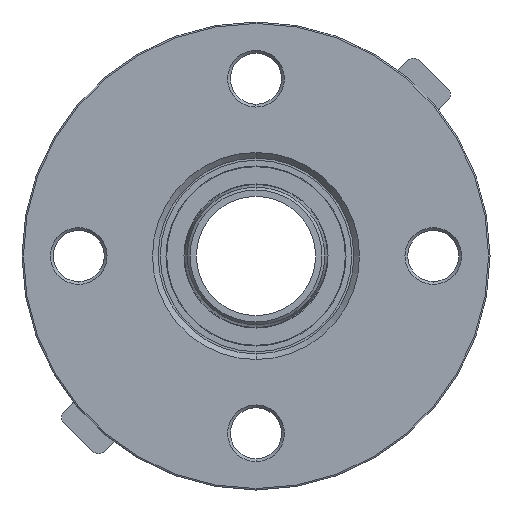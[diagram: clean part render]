
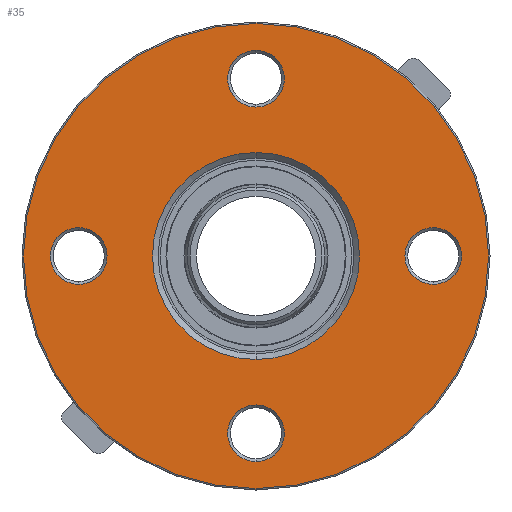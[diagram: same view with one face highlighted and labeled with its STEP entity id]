
A CAD part, left-side view. The second image highlights one B-rep face of the part: STEP entity #35.
In plain terms, the highlighted planar face has unit normal (-1, 0, 0).
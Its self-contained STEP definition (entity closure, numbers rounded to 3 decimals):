
#35 = ADVANCED_FACE ( 'NONE', ( #2738, #2739, #2745, #2735, #2737, #2743 ), #2744, .F. ) ;
#234 = VERTEX_POINT ( 'NONE', #1807 ) ;
#240 = VERTEX_POINT ( 'NONE', #1823 ) ;
#268 = VERTEX_POINT ( 'NONE', #1915 ) ;
#280 = VERTEX_POINT ( 'NONE', #1924 ) ;
#285 = VERTEX_POINT ( 'NONE', #1929 ) ;
#295 = VERTEX_POINT ( 'NONE', #1939 ) ;
#297 = VERTEX_POINT ( 'NONE', #1941 ) ;
#299 = VERTEX_POINT ( 'NONE', #1943 ) ;
#302 = VERTEX_POINT ( 'NONE', #1946 ) ;
#303 = VERTEX_POINT ( 'NONE', #1947 ) ;
#312 = VERTEX_POINT ( 'NONE', #1956 ) ;
#387 = AXIS2_PLACEMENT_3D ( 'NONE', #2746, #2747, #2748 ) ;
#530 = AXIS2_PLACEMENT_3D ( 'NONE', #3006, #3007, #3008 ) ;
#539 = CIRCLE ( 'NONE', #572, 82. ) ;
#547 = AXIS2_PLACEMENT_3D ( 'NONE', #1049, #1050, #1051 ) ;
#551 = CIRCLE ( 'NONE', #530, 36.5 ) ;
#558 = CIRCLE ( 'NONE', #547, 10. ) ;
#572 = AXIS2_PLACEMENT_3D ( 'NONE', #1045, #1046, #1047 ) ;
#662 = EDGE_CURVE ( 'NONE', #297, #1070, #539, .T. ) ;
#663 = EDGE_CURVE ( 'NONE', #240, #268, #558, .T. ) ;
#669 = EDGE_CURVE ( 'NONE', #285, #280, #551, .T. ) ;
#700 = CIRCLE ( 'NONE', #703, 10. ) ;
#703 = AXIS2_PLACEMENT_3D ( 'NONE', #1419, #1420, #1421 ) ;
#704 = CIRCLE ( 'NONE', #707, 10. ) ;
#706 = CIRCLE ( 'NONE', #709, 10. ) ;
#707 = AXIS2_PLACEMENT_3D ( 'NONE', #1426, #1427, #1428 ) ;
#708 = CIRCLE ( 'NONE', #712, 10. ) ;
#709 = AXIS2_PLACEMENT_3D ( 'NONE', #1430, #1431, #1432 ) ;
#710 = CIRCLE ( 'NONE', #714, 82. ) ;
#712 = AXIS2_PLACEMENT_3D ( 'NONE', #1434, #1435, #1436 ) ;
#713 = CIRCLE ( 'NONE', #716, 36.5 ) ;
#714 = AXIS2_PLACEMENT_3D ( 'NONE', #1437, #1438, #1439 ) ;
#716 = AXIS2_PLACEMENT_3D ( 'NONE', #1440, #1441, #1442 ) ;
#719 = CIRCLE ( 'NONE', #722, 10. ) ;
#722 = AXIS2_PLACEMENT_3D ( 'NONE', #1449, #1450, #1451 ) ;
#762 = CIRCLE ( 'NONE', #769, 10. ) ;
#769 = AXIS2_PLACEMENT_3D ( 'NONE', #1535, #1536, #1537 ) ;
#871 = ORIENTED_EDGE ( 'NONE', *, *, #2142, .T. ) ;
#1045 = CARTESIAN_POINT ( 'NONE',  ( -29.224, 7.248, 10.787 ) ) ;
#1046 = DIRECTION ( 'NONE',  ( -1., 0., 0. ) ) ;
#1047 = DIRECTION ( 'NONE',  ( 0., 0., -1. ) ) ;
#1049 = CARTESIAN_POINT ( 'NONE',  ( -29.224, 7.248, -51.713 ) ) ;
#1050 = DIRECTION ( 'NONE',  ( 1., 0., 0. ) ) ;
#1051 = DIRECTION ( 'NONE',  ( 0., 0., -1. ) ) ;
#1070 = VERTEX_POINT ( 'NONE', #3058 ) ;
#1123 = EDGE_LOOP ( 'NONE', ( #2242, #2416 ) ) ;
#1124 = EDGE_LOOP ( 'NONE', ( #871, #1210 ) ) ;
#1125 = EDGE_LOOP ( 'NONE', ( #2350, #2273 ) ) ;
#1126 = EDGE_LOOP ( 'NONE', ( #2207, #2262 ) ) ;
#1128 = EDGE_LOOP ( 'NONE', ( #2310, #2451 ) ) ;
#1210 = ORIENTED_EDGE ( 'NONE', *, *, #2110, .T. ) ;
#1411 = CIRCLE ( 'NONE', #1774, 10. ) ;
#1419 = CARTESIAN_POINT ( 'NONE',  ( -29.224, 7.248, -51.713 ) ) ;
#1420 = DIRECTION ( 'NONE',  ( 1., 0., 0. ) ) ;
#1421 = DIRECTION ( 'NONE',  ( 0., 0., -1. ) ) ;
#1426 = CARTESIAN_POINT ( 'NONE',  ( -29.224, -55.252, 10.787 ) ) ;
#1427 = DIRECTION ( 'NONE',  ( 1., 0., 0. ) ) ;
#1428 = DIRECTION ( 'NONE',  ( 0., 0., -1. ) ) ;
#1430 = CARTESIAN_POINT ( 'NONE',  ( -29.224, 69.748, 10.787 ) ) ;
#1431 = DIRECTION ( 'NONE',  ( 1., 0., 0. ) ) ;
#1432 = DIRECTION ( 'NONE',  ( 0., 0., -1. ) ) ;
#1434 = CARTESIAN_POINT ( 'NONE',  ( -29.224, 7.248, 73.287 ) ) ;
#1435 = DIRECTION ( 'NONE',  ( 1., 0., 0. ) ) ;
#1436 = DIRECTION ( 'NONE',  ( 0., 0., -1. ) ) ;
#1437 = CARTESIAN_POINT ( 'NONE',  ( -29.224, 7.248, 10.787 ) ) ;
#1438 = DIRECTION ( 'NONE',  ( -1., 0., 0. ) ) ;
#1439 = DIRECTION ( 'NONE',  ( 0., 0., -1. ) ) ;
#1440 = CARTESIAN_POINT ( 'NONE',  ( -29.224, 7.248, 10.787 ) ) ;
#1441 = DIRECTION ( 'NONE',  ( 1., 0., 0. ) ) ;
#1442 = DIRECTION ( 'NONE',  ( 0., 0., -1. ) ) ;
#1449 = CARTESIAN_POINT ( 'NONE',  ( -29.224, 69.748, 10.787 ) ) ;
#1450 = DIRECTION ( 'NONE',  ( 1., 0., 0. ) ) ;
#1451 = DIRECTION ( 'NONE',  ( 0., 0., -1. ) ) ;
#1535 = CARTESIAN_POINT ( 'NONE',  ( -29.224, 7.248, 73.287 ) ) ;
#1536 = DIRECTION ( 'NONE',  ( 1., 0., 0. ) ) ;
#1537 = DIRECTION ( 'NONE',  ( 0., 0., -1. ) ) ;
#1774 = AXIS2_PLACEMENT_3D ( 'NONE', #2951, #2952, #2953 ) ;
#1807 = CARTESIAN_POINT ( 'NONE',  ( -29.224, 7.248, 83.287 ) ) ;
#1823 = CARTESIAN_POINT ( 'NONE',  ( -29.224, 7.248, -41.713 ) ) ;
#1915 = CARTESIAN_POINT ( 'NONE',  ( -29.224, 7.248, -61.713 ) ) ;
#1924 = CARTESIAN_POINT ( 'NONE',  ( -29.224, 7.248, -25.713 ) ) ;
#1929 = CARTESIAN_POINT ( 'NONE',  ( -29.224, 7.248, 47.287 ) ) ;
#1939 = CARTESIAN_POINT ( 'NONE',  ( -29.224, -55.252, 0.787 ) ) ;
#1941 = CARTESIAN_POINT ( 'NONE',  ( -29.224, 7.248, 92.787 ) ) ;
#1943 = CARTESIAN_POINT ( 'NONE',  ( -29.224, -55.252, 20.787 ) ) ;
#1946 = CARTESIAN_POINT ( 'NONE',  ( -29.224, 69.748, 0.787 ) ) ;
#1947 = CARTESIAN_POINT ( 'NONE',  ( -29.224, 69.748, 20.787 ) ) ;
#1956 = CARTESIAN_POINT ( 'NONE',  ( -29.224, 7.248, 63.287 ) ) ;
#2067 = EDGE_LOOP ( 'NONE', ( #2244, #2308 ) ) ;
#2088 = EDGE_CURVE ( 'NONE', #299, #295, #1411, .T. ) ;
#2105 = EDGE_CURVE ( 'NONE', #268, #240, #700, .T. ) ;
#2107 = EDGE_CURVE ( 'NONE', #295, #299, #704, .T. ) ;
#2108 = EDGE_CURVE ( 'NONE', #302, #303, #706, .T. ) ;
#2110 = EDGE_CURVE ( 'NONE', #312, #234, #708, .T. ) ;
#2111 = EDGE_CURVE ( 'NONE', #1070, #297, #710, .T. ) ;
#2112 = EDGE_CURVE ( 'NONE', #280, #285, #713, .T. ) ;
#2115 = EDGE_CURVE ( 'NONE', #303, #302, #719, .T. ) ;
#2142 = EDGE_CURVE ( 'NONE', #234, #312, #762, .T. ) ;
#2207 = ORIENTED_EDGE ( 'NONE', *, *, #2088, .T. ) ;
#2242 = ORIENTED_EDGE ( 'NONE', *, *, #669, .T. ) ;
#2244 = ORIENTED_EDGE ( 'NONE', *, *, #2111, .T. ) ;
#2262 = ORIENTED_EDGE ( 'NONE', *, *, #2107, .T. ) ;
#2273 = ORIENTED_EDGE ( 'NONE', *, *, #2105, .T. ) ;
#2308 = ORIENTED_EDGE ( 'NONE', *, *, #662, .T. ) ;
#2310 = ORIENTED_EDGE ( 'NONE', *, *, #2115, .T. ) ;
#2350 = ORIENTED_EDGE ( 'NONE', *, *, #663, .T. ) ;
#2416 = ORIENTED_EDGE ( 'NONE', *, *, #2112, .T. ) ;
#2451 = ORIENTED_EDGE ( 'NONE', *, *, #2108, .T. ) ;
#2735 = FACE_BOUND ( 'NONE', #1124, .T. ) ;
#2737 = FACE_OUTER_BOUND ( 'NONE', #2067, .T. ) ;
#2738 = FACE_BOUND ( 'NONE', #1125, .T. ) ;
#2739 = FACE_BOUND ( 'NONE', #1126, .T. ) ;
#2743 = FACE_BOUND ( 'NONE', #1123, .T. ) ;
#2744 = PLANE ( 'NONE',  #387 ) ;
#2745 = FACE_BOUND ( 'NONE', #1128, .T. ) ;
#2746 = CARTESIAN_POINT ( 'NONE',  ( -29.224, 7.248, 10.787 ) ) ;
#2747 = DIRECTION ( 'NONE',  ( 1., 0., 0. ) ) ;
#2748 = DIRECTION ( 'NONE',  ( 0., 0., -1. ) ) ;
#2951 = CARTESIAN_POINT ( 'NONE',  ( -29.224, -55.252, 10.787 ) ) ;
#2952 = DIRECTION ( 'NONE',  ( 1., 0., 0. ) ) ;
#2953 = DIRECTION ( 'NONE',  ( 0., 0., -1. ) ) ;
#3006 = CARTESIAN_POINT ( 'NONE',  ( -29.224, 7.248, 10.787 ) ) ;
#3007 = DIRECTION ( 'NONE',  ( 1., 0., 0. ) ) ;
#3008 = DIRECTION ( 'NONE',  ( 0., 0., -1. ) ) ;
#3058 = CARTESIAN_POINT ( 'NONE',  ( -29.224, 7.248, -71.213 ) ) ;
